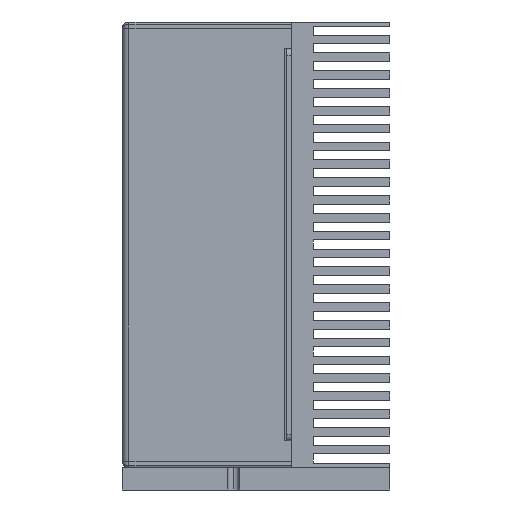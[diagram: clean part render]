
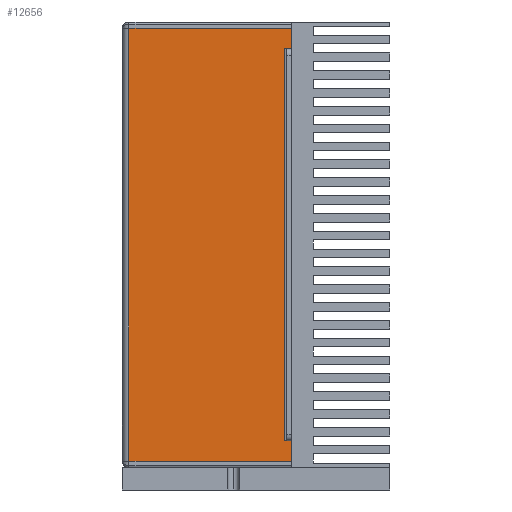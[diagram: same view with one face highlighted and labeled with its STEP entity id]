
A CAD part, left-side view. The second image highlights one B-rep face of the part: STEP entity #12656.
In plain terms, the highlighted planar face has unit normal (-1, 0, 0).
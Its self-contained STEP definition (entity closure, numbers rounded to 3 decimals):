
#320 = VECTOR ( 'NONE', #12266, 1000. ) ;
#625 = CARTESIAN_POINT ( 'NONE',  ( -107.2, -73., 88. ) ) ;
#852 = EDGE_CURVE ( 'NONE', #11997, #15179, #8403, .T. ) ;
#887 = VECTOR ( 'NONE', #12107, 1000. ) ;
#1092 = ORIENTED_EDGE ( 'NONE', *, *, #1700, .F. ) ;
#1264 = DIRECTION ( 'NONE',  ( 0., 1., 0. ) ) ;
#1700 = EDGE_CURVE ( 'NONE', #7798, #15179, #1965, .T. ) ;
#1965 = LINE ( 'NONE', #15490, #15136 ) ;
#2042 = CARTESIAN_POINT ( 'NONE',  ( -107.2, -76., 97.8 ) ) ;
#2156 = DIRECTION ( 'NONE',  ( 0., 0., -1. ) ) ;
#2389 = CARTESIAN_POINT ( 'NONE',  ( -107.2, -73., -88. ) ) ;
#2469 = VECTOR ( 'NONE', #14619, 1000. ) ;
#2473 = LINE ( 'NONE', #11283, #10773 ) ;
#2556 = FACE_OUTER_BOUND ( 'NONE', #15538, .T. ) ;
#2677 = VECTOR ( 'NONE', #4478, 1000. ) ;
#2789 = CARTESIAN_POINT ( 'NONE',  ( -107.2, 0., 0. ) ) ;
#2855 = LINE ( 'NONE', #7221, #887 ) ;
#2859 = LINE ( 'NONE', #4771, #2469 ) ;
#2931 = ORIENTED_EDGE ( 'NONE', *, *, #9560, .F. ) ;
#2990 = CARTESIAN_POINT ( 'NONE',  ( -107.2, -73., 88. ) ) ;
#3145 = CARTESIAN_POINT ( 'NONE',  ( -107.2, -3., 0. ) ) ;
#3152 = CARTESIAN_POINT ( 'NONE',  ( -107.2, -76., 97.093 ) ) ;
#3251 = LINE ( 'NONE', #3145, #2677 ) ;
#3363 = EDGE_CURVE ( 'NONE', #15533, #11769, #2859, .T. ) ;
#3962 = DIRECTION ( 'NONE',  ( 0., 1., 0. ) ) ;
#4478 = DIRECTION ( 'NONE',  ( 0., 0., 1. ) ) ;
#4485 = CARTESIAN_POINT ( 'NONE',  ( -107.2, -76., -88. ) ) ;
#4542 = CARTESIAN_POINT ( 'NONE',  ( -107.2, -75.891, 88. ) ) ;
#4771 = CARTESIAN_POINT ( 'NONE',  ( -107.2, -76., 88. ) ) ;
#5052 = EDGE_CURVE ( 'NONE', #11769, #12458, #7962, .T. ) ;
#5675 = EDGE_CURVE ( 'NONE', #11997, #7577, #3251, .T. ) ;
#6670 = VECTOR ( 'NONE', #9708, 1000. ) ;
#6687 = ORIENTED_EDGE ( 'NONE', *, *, #11280, .F. ) ;
#6767 = DIRECTION ( 'NONE',  ( 0., 0., -1. ) ) ;
#7165 = CARTESIAN_POINT ( 'NONE',  ( -107.2, -75.891, -88. ) ) ;
#7221 = CARTESIAN_POINT ( 'NONE',  ( -107.2, -73., -88. ) ) ;
#7261 = CARTESIAN_POINT ( 'NONE',  ( -107.2, 0., 97.093 ) ) ;
#7567 = VECTOR ( 'NONE', #6767, 1000. ) ;
#7577 = VERTEX_POINT ( 'NONE', #14946 ) ;
#7798 = VERTEX_POINT ( 'NONE', #4485 ) ;
#7962 = LINE ( 'NONE', #625, #7567 ) ;
#8147 = EDGE_CURVE ( 'NONE', #8514, #15533, #2473, .T. ) ;
#8403 = LINE ( 'NONE', #16051, #6670 ) ;
#8514 = VERTEX_POINT ( 'NONE', #13664 ) ;
#9560 = EDGE_CURVE ( 'NONE', #11897, #8514, #10464, .T. ) ;
#9669 = VECTOR ( 'NONE', #12372, 1000. ) ;
#9708 = DIRECTION ( 'NONE',  ( 0., -1., 0. ) ) ;
#9929 = ORIENTED_EDGE ( 'NONE', *, *, #5675, .F. ) ;
#10197 = LINE ( 'NONE', #2389, #320 ) ;
#10317 = ORIENTED_EDGE ( 'NONE', *, *, #8147, .F. ) ;
#10464 = LINE ( 'NONE', #2042, #12378 ) ;
#10773 = VECTOR ( 'NONE', #1264, 1000. ) ;
#11016 = ORIENTED_EDGE ( 'NONE', *, *, #13088, .F. ) ;
#11103 = AXIS2_PLACEMENT_3D ( 'NONE', #2789, #14028, #3962 ) ;
#11280 = EDGE_CURVE ( 'NONE', #12458, #14620, #2855, .T. ) ;
#11283 = CARTESIAN_POINT ( 'NONE',  ( -107.2, -76., 88. ) ) ;
#11519 = EDGE_CURVE ( 'NONE', #14620, #7798, #10197, .T. ) ;
#11769 = VERTEX_POINT ( 'NONE', #2990 ) ;
#11791 = LINE ( 'NONE', #7261, #9669 ) ;
#11883 = CARTESIAN_POINT ( 'NONE',  ( -107.2, -76., -97.093 ) ) ;
#11897 = VERTEX_POINT ( 'NONE', #3152 ) ;
#11951 = ORIENTED_EDGE ( 'NONE', *, *, #3363, .F. ) ;
#11997 = VERTEX_POINT ( 'NONE', #13295 ) ;
#12042 = ORIENTED_EDGE ( 'NONE', *, *, #852, .T. ) ;
#12107 = DIRECTION ( 'NONE',  ( 0., -1., 0. ) ) ;
#12266 = DIRECTION ( 'NONE',  ( 0., -1., 0. ) ) ;
#12330 = ORIENTED_EDGE ( 'NONE', *, *, #11519, .F. ) ;
#12372 = DIRECTION ( 'NONE',  ( 0., -1., 0. ) ) ;
#12378 = VECTOR ( 'NONE', #2156, 1000. ) ;
#12458 = VERTEX_POINT ( 'NONE', #14319 ) ;
#12656 = ADVANCED_FACE ( 'NONE', ( #2556 ), #12673, .F. ) ;
#12673 = PLANE ( 'NONE',  #11103 ) ;
#13028 = ORIENTED_EDGE ( 'NONE', *, *, #5052, .F. ) ;
#13088 = EDGE_CURVE ( 'NONE', #7577, #11897, #11791, .T. ) ;
#13295 = CARTESIAN_POINT ( 'NONE',  ( -107.2, -3., -97.093 ) ) ;
#13664 = CARTESIAN_POINT ( 'NONE',  ( -107.2, -76., 88. ) ) ;
#14028 = DIRECTION ( 'NONE',  ( 1., 0., 0. ) ) ;
#14319 = CARTESIAN_POINT ( 'NONE',  ( -107.2, -73., -88. ) ) ;
#14619 = DIRECTION ( 'NONE',  ( 0., 1., 0. ) ) ;
#14620 = VERTEX_POINT ( 'NONE', #7165 ) ;
#14946 = CARTESIAN_POINT ( 'NONE',  ( -107.2, -3., 97.093 ) ) ;
#15136 = VECTOR ( 'NONE', #15908, 1000. ) ;
#15179 = VERTEX_POINT ( 'NONE', #11883 ) ;
#15490 = CARTESIAN_POINT ( 'NONE',  ( -107.2, -76., 97.8 ) ) ;
#15533 = VERTEX_POINT ( 'NONE', #4542 ) ;
#15538 = EDGE_LOOP ( 'NONE', ( #10317, #2931, #11016, #9929, #12042, #1092, #12330, #6687, #13028, #11951 ) ) ;
#15908 = DIRECTION ( 'NONE',  ( 0., 0., -1. ) ) ;
#16051 = CARTESIAN_POINT ( 'NONE',  ( -107.2, 0., -97.093 ) ) ;
